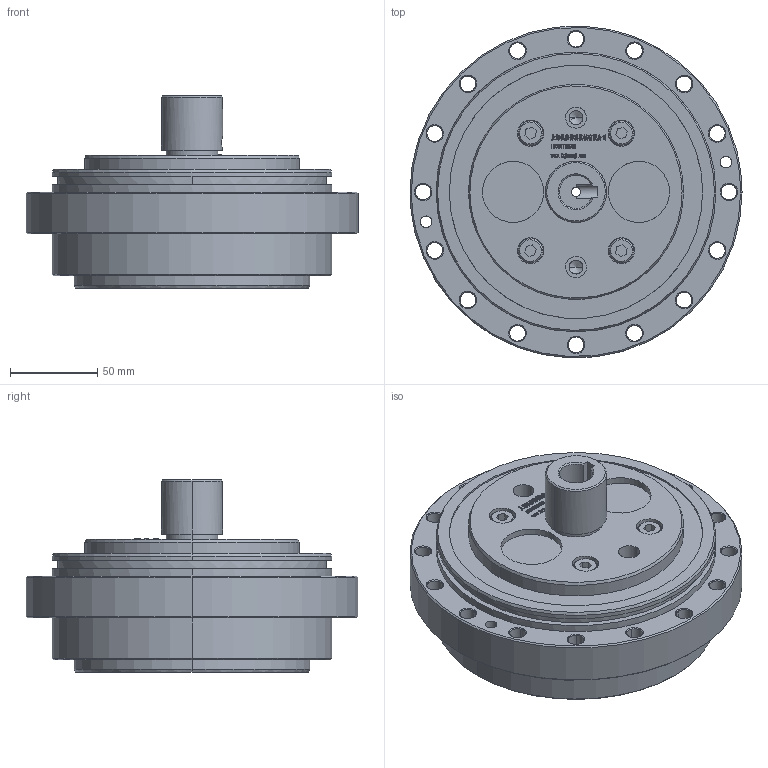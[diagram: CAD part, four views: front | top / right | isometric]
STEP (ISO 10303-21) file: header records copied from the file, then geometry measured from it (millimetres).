
FILE_DESCRIPTION (( 'STEP AP214' ), '1' );
FILE_NAME ('190BX-OP-19x27L107.STEP', '2022-11-12T12:13:08', ( '' ), ( '' ), 'SwSTEP 2.0', 'SolidWorks 2020', '' );
FILE_SCHEMA (( 'AUTOMOTIVE_DESIGN' ));
Length unit declared in the file: millimetre
Products named in the file (8): 190BX-OP-19x27L1071.stp; 錨璃97^190BX-OP-19x27L107; 190BX-OP-19x27L1075.stp; 190BX-OP-19x27L1072.stp; 190BX-OP-19x27L107.stp; 190BX-OP-19x27L1074.stp; 190BX-OP-19x27L1073.stp; 190BX-OP-19x27L107
Assembly tree (7 placements, depth 3):
  190BX-OP-19x27L107
    190BX-OP-19x27L107.stp
      190BX-OP-19x27L1071.stp
      190BX-OP-19x27L1072.stp
      190BX-OP-19x27L1073.stp
      190BX-OP-19x27L1074.stp
      190BX-OP-19x27L1075.stp
    錨璃97^190BX-OP-19x27L107
Bounding box: 190 x 189.86 x 110 mm (x, y, z)
Volume: 1525491.6 mm3; surface area: 156142 mm2
Topology: 71 solids, 71 shells, 2014 faces, 5392 edges, 3534 vertices
Faces by surface type: plane 1155, bspline 572, cone 152, cylinder 135
Entity records: 112527 total; most frequent: CARTESIAN_POINT 48194, ORIENTED_EDGE 10736, DIRECTION 6594, EDGE_CURVE 5368, LINE 3688, VECTOR 3688, VERTEX_POINT 3534, EDGE_LOOP 2120
